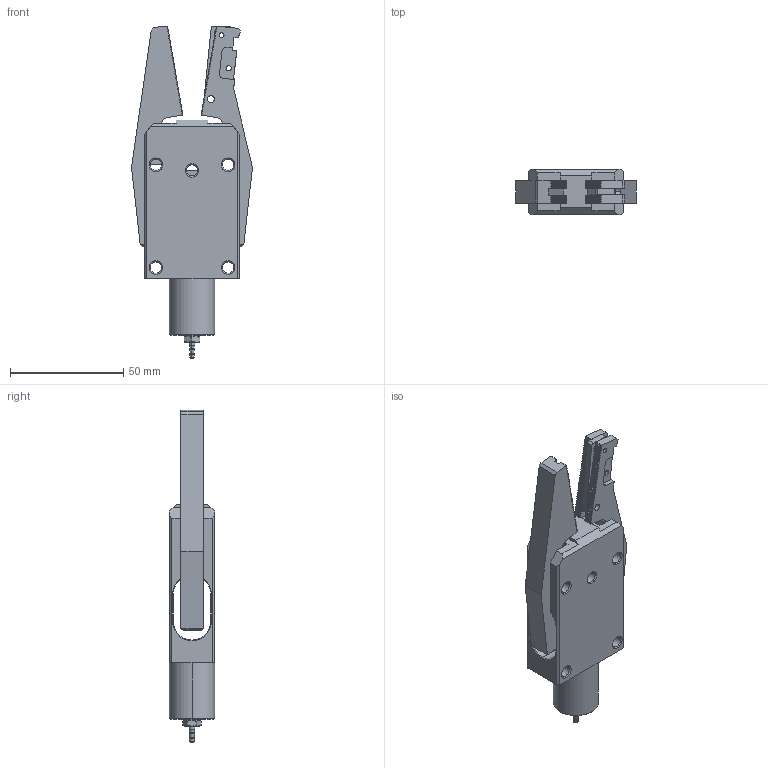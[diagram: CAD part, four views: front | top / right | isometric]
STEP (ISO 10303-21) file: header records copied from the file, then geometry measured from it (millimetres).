
FILE_DESCRIPTION (( 'STEP AP214' ), '1' );
FILE_NAME ('GRX20-C.STEP', '2019-11-12T03:32:20', ( '微软用户' ), ( '微软中国' ), 'SwSTEP 2.0', 'SolidWorks 2016', '' );
FILE_SCHEMA (( 'AUTOMOTIVE_DESIGN' ));
Length unit declared in the file: millimetre
Products named in the file (1): GRX20-C
Bounding box: 53.49 x 20 x 146.87 mm (x, y, z)
Volume: 19859.9 mm3; surface area: 27209.9 mm2
Topology: 4 solids, 5 shells, 6954 faces, 14743 edges, 7801 vertices
Faces by surface type: plane 5630, bspline 1207, cylinder 72, cone 43, torus 2
Entity records: 266040 total; most frequent: CARTESIAN_POINT 48234, ORIENTED_EDGE 29486, DIRECTION 26252, EDGE_CURVE 14743, VECTOR 14346, LINE 14346, VERTEX_POINT 7801, EDGE_LOOP 6996
